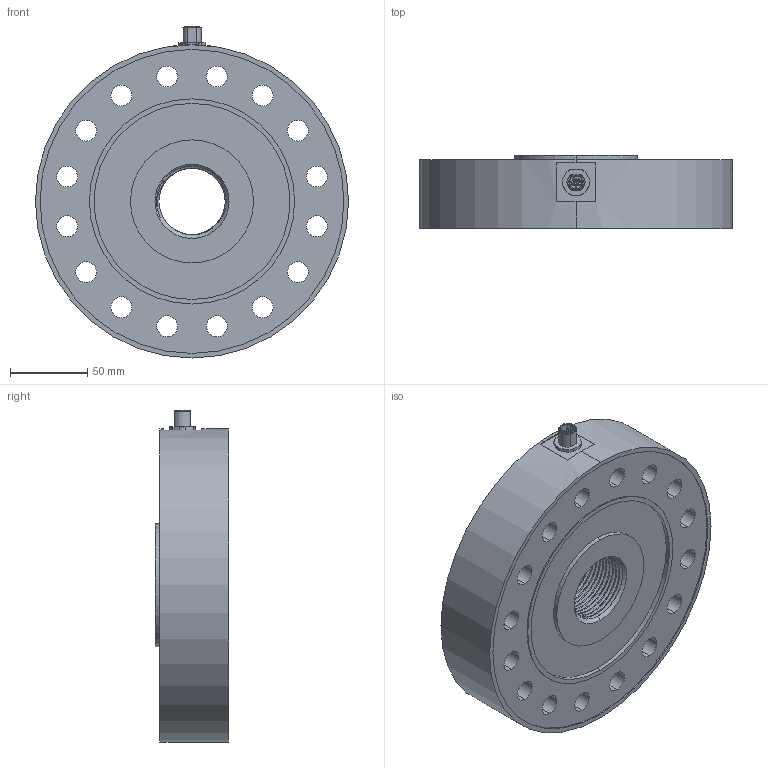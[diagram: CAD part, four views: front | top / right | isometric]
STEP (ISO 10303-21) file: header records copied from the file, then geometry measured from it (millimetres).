
FILE_DESCRIPTION (( 'STEP AP214' ), '1' );
FILE_NAME ('KFP3-300kN.STEP', '2022-11-11T12:09:33', ( '' ), ( '' ), 'SwSTEP 2.0', 'SolidWorks 2019', '' );
FILE_SCHEMA (( 'AUTOMOTIVE_DESIGN' ));
Length unit declared in the file: millimetre
Products named in the file (8): KFP3-300kN; 86_0131_0002_00004_01; KFP3-300kN Grundkörper; 86_0131_0002_00004_02; M12 Flanschstecker
Assembly tree (4 placements, depth 3):
  KFP3-300kN
    KFP3-300kN Grundkörper
    M12 Flanschstecker
      86_0131_0002_00004_01
      86_0131_0002_00004_02
  86_0131_0002_00004_01
  KFP3-300kN Grundkörper
  86_0131_0002_00004_02
Bounding box: 203 x 47.6 x 215.2 mm (x, y, z)
Volume: 1227627.6 mm3; surface area: 133085.1 mm2
Topology: 3 solids, 10 shells, 343 faces, 891 edges, 563 vertices
Faces by surface type: cylinder 163, plane 84, cone 61, bspline 19, sphere 8, torus 8
Entity records: 21052 total; most frequent: CARTESIAN_POINT 12415, ORIENTED_EDGE 1734, DIRECTION 1617, EDGE_CURVE 867, AXIS2_PLACEMENT_3D 625, VERTEX_POINT 555, EDGE_LOOP 406, LINE 367
